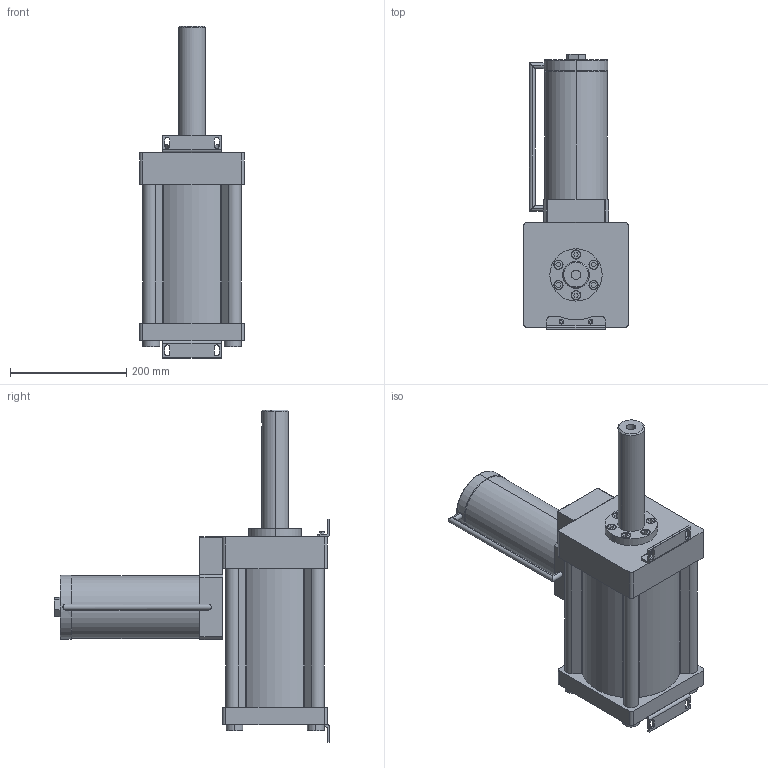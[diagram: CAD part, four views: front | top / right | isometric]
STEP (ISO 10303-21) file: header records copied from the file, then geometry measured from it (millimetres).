
FILE_DESCRIPTION (( 'STEP AP203' ), '1' );
FILE_NAME ('MHB-1628N120+YT63YT80YT100YT125.STEP', '2016-03-19T03:49:16', ( 'WIN' ), ( '' ), 'SwSTEP 2.0', 'SolidWorks 2014', '' );
FILE_SCHEMA (( 'CONFIG_CONTROL_DESIGN' ));
Length unit declared in the file: millimetre
Products named in the file (1): MHB-1628N120+YT63YT80YT100YT125
Bounding box: 180 x 474 x 571 mm (x, y, z)
Volume: 5412157.3 mm3; surface area: 828936.9 mm2
Topology: 1 solids, 17 shells, 432 faces, 1001 edges, 654 vertices
Faces by surface type: plane 267, cylinder 159, torus 4, cone 2
Entity records: 12537 total; most frequent: CARTESIAN_POINT 2370, DIRECTION 2154, ORIENTED_EDGE 2002, EDGE_CURVE 1001, AXIS2_PLACEMENT_3D 746, LINE 662, VECTOR 662, VERTEX_POINT 654
